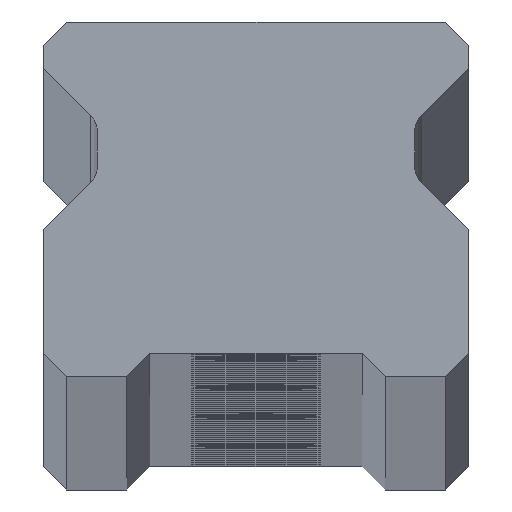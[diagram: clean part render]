
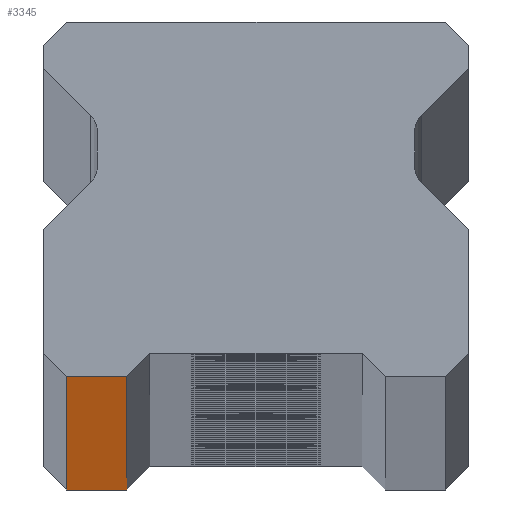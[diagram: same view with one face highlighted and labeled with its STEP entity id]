
A CAD part, top view. The second image highlights one B-rep face of the part: STEP entity #3345.
In plain terms, the highlighted planar face has unit normal (0, -1, 0).
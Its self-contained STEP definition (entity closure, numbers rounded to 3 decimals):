
#529 = CARTESIAN_POINT ( 'NONE',  ( -7., 0., -1760. ) ) ;
#718 = VERTEX_POINT ( 'NONE', #1346 ) ;
#797 = LINE ( 'NONE', #529, #7553 ) ;
#912 = VERTEX_POINT ( 'NONE', #3802 ) ;
#990 = VECTOR ( 'NONE', #5745, 1000. ) ;
#998 = DIRECTION ( 'NONE',  ( 0., 1., 0. ) ) ;
#1163 = CARTESIAN_POINT ( 'NONE',  ( -10.25, 0., 1760. ) ) ;
#1346 = CARTESIAN_POINT ( 'NONE',  ( -7., 0., 1760. ) ) ;
#1559 = CARTESIAN_POINT ( 'NONE',  ( -10.25, 0., 1760. ) ) ;
#1811 = CARTESIAN_POINT ( 'NONE',  ( -10.25, 0., -1760. ) ) ;
#2350 = VERTEX_POINT ( 'NONE', #1811 ) ;
#2361 = FACE_OUTER_BOUND ( 'NONE', #5182, .T. ) ;
#3345 = ADVANCED_FACE ( 'NONE', ( #2361 ), #4120, .F. ) ;
#3802 = CARTESIAN_POINT ( 'NONE',  ( -7., 0., -1760. ) ) ;
#3858 = LINE ( 'NONE', #8949, #990 ) ;
#4022 = EDGE_CURVE ( 'NONE', #912, #718, #797, .T. ) ;
#4120 = PLANE ( 'NONE',  #8448 ) ;
#4202 = ORIENTED_EDGE ( 'NONE', *, *, #6674, .F. ) ;
#4271 = ORIENTED_EDGE ( 'NONE', *, *, #4022, .T. ) ;
#4389 = DIRECTION ( 'NONE',  ( 1., 0., 0. ) ) ;
#4464 = VECTOR ( 'NONE', #9545, 1000. ) ;
#5182 = EDGE_LOOP ( 'NONE', ( #9241, #4271, #4202, #6079 ) ) ;
#5745 = DIRECTION ( 'NONE',  ( 1., 0., 0. ) ) ;
#6079 = ORIENTED_EDGE ( 'NONE', *, *, #8808, .T. ) ;
#6181 = CARTESIAN_POINT ( 'NONE',  ( 11.5, 0., -1760. ) ) ;
#6185 = VERTEX_POINT ( 'NONE', #1163 ) ;
#6674 = EDGE_CURVE ( 'NONE', #6185, #718, #3858, .T. ) ;
#6727 = DIRECTION ( 'NONE',  ( 0., 0., 1. ) ) ;
#6754 = LINE ( 'NONE', #1559, #4464 ) ;
#7116 = VECTOR ( 'NONE', #4389, 1000. ) ;
#7149 = DIRECTION ( 'NONE',  ( -1., 0., 0. ) ) ;
#7374 = LINE ( 'NONE', #6181, #7116 ) ;
#7553 = VECTOR ( 'NONE', #6727, 1000. ) ;
#8273 = EDGE_CURVE ( 'NONE', #2350, #912, #7374, .T. ) ;
#8448 = AXIS2_PLACEMENT_3D ( 'NONE', #9444, #998, #7149 ) ;
#8808 = EDGE_CURVE ( 'NONE', #6185, #2350, #6754, .T. ) ;
#8949 = CARTESIAN_POINT ( 'NONE',  ( 11.5, 0., 1760. ) ) ;
#9241 = ORIENTED_EDGE ( 'NONE', *, *, #8273, .T. ) ;
#9444 = CARTESIAN_POINT ( 'NONE',  ( 11.5, 0., 1760. ) ) ;
#9545 = DIRECTION ( 'NONE',  ( 0., 0., -1. ) ) ;
